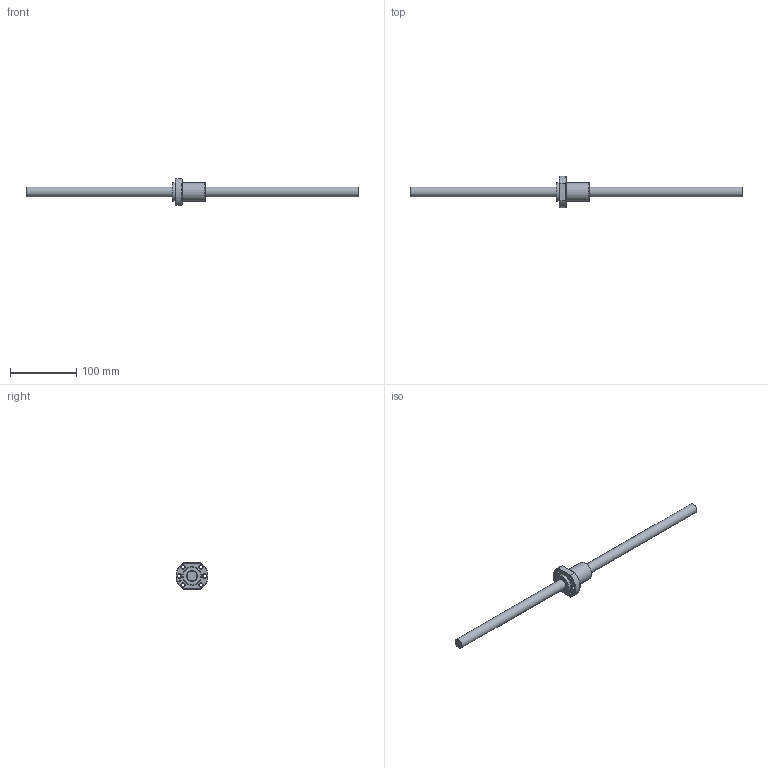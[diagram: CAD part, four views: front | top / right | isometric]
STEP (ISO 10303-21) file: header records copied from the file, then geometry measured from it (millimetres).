
FILE_DESCRIPTION (( 'STEP AP203' ), '1' );
FILE_NAME ('SFA1620-1.8.step', '2024-05-07T07:24:57', ( '' ), ( '' ), 'SwSTEP 2.0', 'SolidWorks 2022', '' );
FILE_SCHEMA (( 'CONFIG_CONTROL_DESIGN' ));
Length unit declared in the file: millimetre
Products named in the file (1): SFA1620-1.8
Bounding box: 500 x 48 x 40 mm (x, y, z)
Volume: 117031.7 mm3; surface area: 35260.2 mm2
Topology: 2 solids, 2 shells, 57 faces, 130 edges, 79 vertices
Faces by surface type: cylinder 20, plane 13, cone 13, torus 6, bspline 5
Full cylindrical faces by diameter (mm): 4 x1, 5 x6, 5.5 x6, 15 x1, 16.6 x1, 28 x2
Entity records: 3129 total; most frequent: CARTESIAN_POINT 2082, DIRECTION 198, ORIENTED_EDGE 156, EDGE_LOOP 96, AXIS2_PLACEMENT_3D 91, EDGE_CURVE 78, FACE_OUTER_BOUND 65, VERTEX_POINT 62
